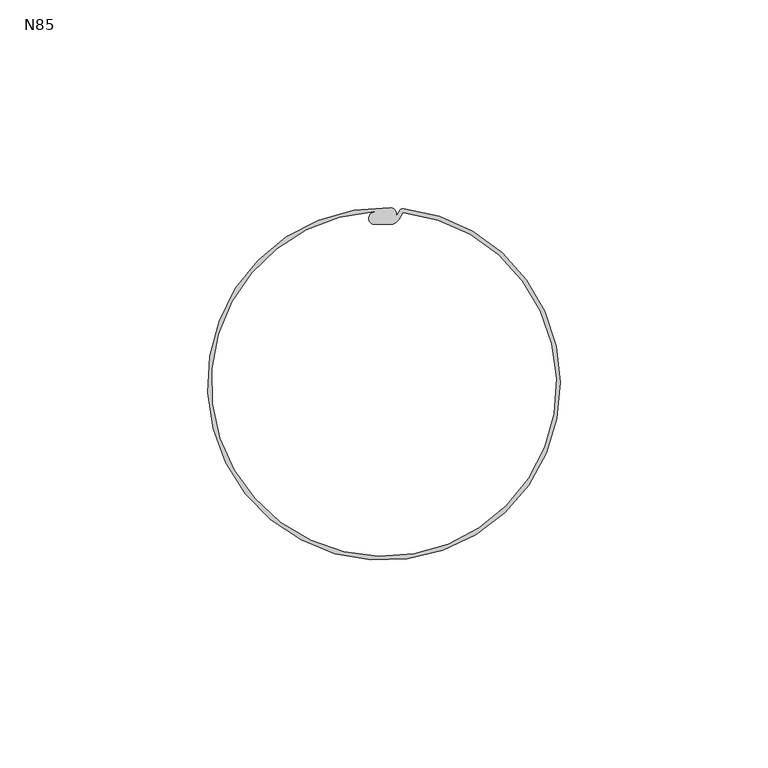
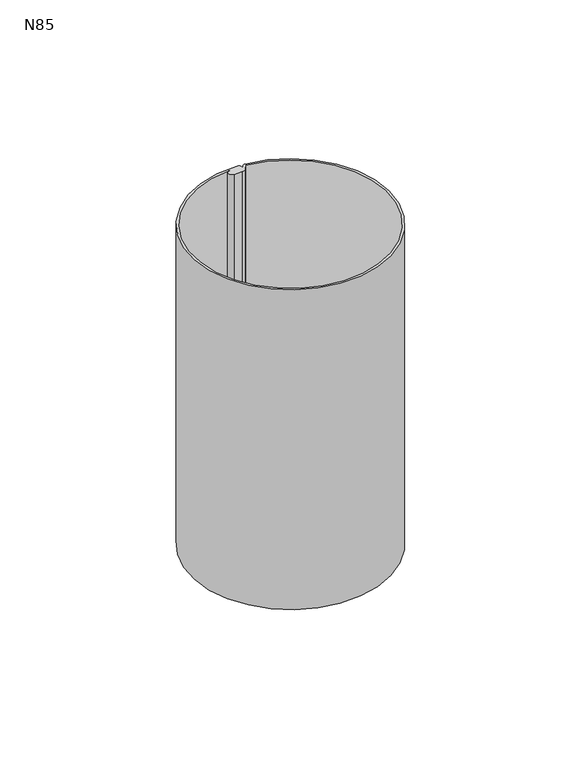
"""IFC4 building model written with IfcOpenShell, lengths in millimetres: proxy geometry, GROVIK_Downpipe_Straight_Vertical : N85."""

from ifc_helpers import new_model, si_unit, frame, origin, place, context, project, spatial, polyline, circle_curve, source, transform, mapped, element, save
from ifc_brep_helpers import plane_surface, cylinder_surface, revolved_surface, advanced_brep


def n85_f8073e85(model_context):
    return source(origin(), model_context, "Body", "AdvancedBrep", [
        advanced_brep(
        [(4.7799116, 42.2303498, -65.0), (3.8941646, 41.9052634, -65.0), (2.8, 40.1056788, -65.0), (1.5, 42.4735212, -65.0), (4.6586072, 41.2376937, -65.0), (-2.286461, 41.4369653, -65.0), (-2.2, 38.3056788, -65.0), (1.4, 38.3056788, -65.0), (3.6663266, 39.6056788, -65.0), (4.7799116, 42.2303498, -210.0), (1.5, 42.4735212, -210.0), (2.8, 40.1056788, -210.0), (3.8941646, 41.9052634, -210.0), (4.6586072, 41.2376937, -210.0), (3.6663266, 39.6056788, -210.0), (1.4, 38.3056788, -210.0), (-2.2, 38.3056788, -210.0), (-2.2861899, 41.4320515, -210.0)],
        [
            (0, 1, circle_curve(frame((4.6614631, 41.1838618, -65.0), z_axis=(0.0, 0.0, 1.0), x_axis=(1.0, 0.0, 0.0)), 1.0531701)),
            (1, 2),
            (2, 3, circle_curve(frame((1.4323114, 40.8955724, -65.0), z_axis=(0.0, 0.0, 1.0), x_axis=(1.0, 0.0, 0.0)), 1.5793999)),
            (3, 0, circle_curve(frame((0.0, 0.0, -65.0), z_axis=(0.0, 0.0, 1.0), x_axis=(1.0, 0.0, 0.0)), 42.5)),
            (4, 5, circle_curve(frame((0.0, 0.0, -65.0), z_axis=(0.0, 0.0, -1.0), x_axis=(1.0, 0.0, 0.0)), 41.5)),
            (5, 6, circle_curve(frame((-2.2, 39.8700532, -65.0), z_axis=(0.0, 0.0, 1.0), x_axis=(1.0, 0.0, 0.0)), 1.5643744)),
            (6, 7),
            (7, 8, circle_curve(frame((1.3537816, 41.0117282, -65.0), z_axis=(0.0, 0.0, 1.0), x_axis=(1.0, 0.0, 0.0)), 2.7064441)),
            (8, 4),
            (9, 10, circle_curve(frame((0.0, 0.0, -210.0), z_axis=(0.0, 0.0, -1.0), x_axis=(1.0, 0.0, 0.0)), 42.5)),
            (10, 11, circle_curve(frame((1.4323114, 40.8955724, -210.0), z_axis=(0.0, 0.0, -1.0), x_axis=(1.0, 0.0, 0.0)), 1.5793999)),
            (11, 12),
            (12, 9, circle_curve(frame((4.6614631, 41.1838618, -210.0), z_axis=(0.0, 0.0, -1.0), x_axis=(1.0, 0.0, 0.0)), 1.0531701)),
            (13, 14),
            (14, 15, circle_curve(frame((1.3537816, 41.0117282, -210.0), z_axis=(0.0, 0.0, -1.0), x_axis=(1.0, 0.0, 0.0)), 2.7064441)),
            (15, 16),
            (16, 17, circle_curve(frame((-2.2, 39.8700532, -210.0), z_axis=(0.0, 0.0, -1.0), x_axis=(1.0, 0.0, 0.0)), 1.5643744)),
            (17, 13, circle_curve(frame((0.0, 0.0, -210.0), z_axis=(0.0, 0.0, 1.0), x_axis=(1.0, 0.0, 0.0)), 41.5)),
            (4, 13),
            (17, 5),
            (16, 6),
            (15, 7),
            (14, 8),
            (0, 9),
            (12, 1),
            (11, 2),
            (10, 3),
        ],
        [
            plane_surface(frame((0.0, 0.0, -65.0), z_axis=(0.0, 0.0, 1.0), x_axis=(0.0, -1.0, 0.0))),
            plane_surface(frame((0.0, 0.0, -210.0), z_axis=(0.0, 0.0, -1.0), x_axis=(0.0, -1.0, 0.0))),
            revolved_surface(polyline([(41.5, 0.0, -210.0), (41.5, 0.0, -65.0)]), (0.0, 0.0, -65.0), (0.0, 0.0, -1.0)),
            cylinder_surface(frame((-2.2, 39.8700532, -65.0), z_axis=(0.0, 0.0, 1.0), x_axis=(1.0, 0.0, 0.0)), 1.5643744),
            plane_surface(frame((-2.2, 38.3056788, -65.0), z_axis=(0.0, -1.0, 0.0), x_axis=(0.0, 0.0, -1.0))),
            cylinder_surface(frame((1.3537816, 41.0117282, -65.0), z_axis=(0.0, 0.0, 1.0), x_axis=(1.0, 0.0, 0.0)), 2.7064441),
            plane_surface(frame((3.6663266, 39.6056788, -65.0), z_axis=(0.8544588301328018, -0.5195191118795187, 0.0), x_axis=(0.0, 0.0, -1.0))),
            cylinder_surface(frame((4.6614631, 41.1838618, -65.0), z_axis=(0.0, 0.0, 1.0), x_axis=(1.0, 0.0, 0.0)), 1.0531701),
            plane_surface(frame((3.8941646, 41.9052634, -65.0), z_axis=(-0.8544588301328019, 0.5195191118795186, 0.0), x_axis=(0.0, 0.0, -1.0))),
            cylinder_surface(frame((1.4323114, 40.8955724, -65.0), z_axis=(0.0, 0.0, 1.0), x_axis=(1.0, 0.0, 0.0)), 1.5793999),
            cylinder_surface(frame((0.0, 0.0, -65.0), z_axis=(0.0, 0.0, 1.0), x_axis=(1.0, 0.0, 0.0)), 42.5),
        ],
        [
            (0, [[1, 2, 3, 4], [5, 6, 7, 8, 9]]),
            (1, [[10, 11, 12, 13], [14, 15, 16, 17, 18]]),
            (2, [[-5, 19, -18, 20]]),
            (3, [[-6, -20, -17, 21]]),
            (4, [[-7, -21, -16, 22]]),
            (5, [[-8, -22, -15, 23]]),
            (6, [[-9, -23, -14, -19]]),
            (7, [[-1, 24, -13, 25]]),
            (8, [[-2, -25, -12, 26]]),
            (9, [[-3, -26, -11, 27]]),
            (10, [[-4, -27, -10, -24]]),
        ],
    ),
    ])


if __name__ == "__main__":
    model = new_model("IFC4")
    model_context = context("Model", 3, world=origin())
    ifc_project = project(units=[si_unit("LENGTHUNIT", "METRE", prefix="MILLI")], contexts=[model_context])
    site = spatial("IfcSite", under=ifc_project)
    building = spatial("IfcBuilding", under=site)
    placement = place(None, origin())
    n85_shape = n85_f8073e85(model_context)
    element("IfcBuildingElementProxy", 1, Name="GROVIK_Downpipe_Straight_Vertical : N85", ObjectType="GROVIK_Downpipe_Straight_Vertical : N85", at=placement, inside=building, context=model_context, shape_type="MappedRepresentation", body=[
        mapped(n85_shape, transform((0.0, 0.0, 0.0), x_axis=(1.0, 0.0, 0.0), y_axis=(0.0, 1.0, 0.0), z_axis=(0.0, 0.0, 1.0))),
    ])
    save(model, "model.ifc")
